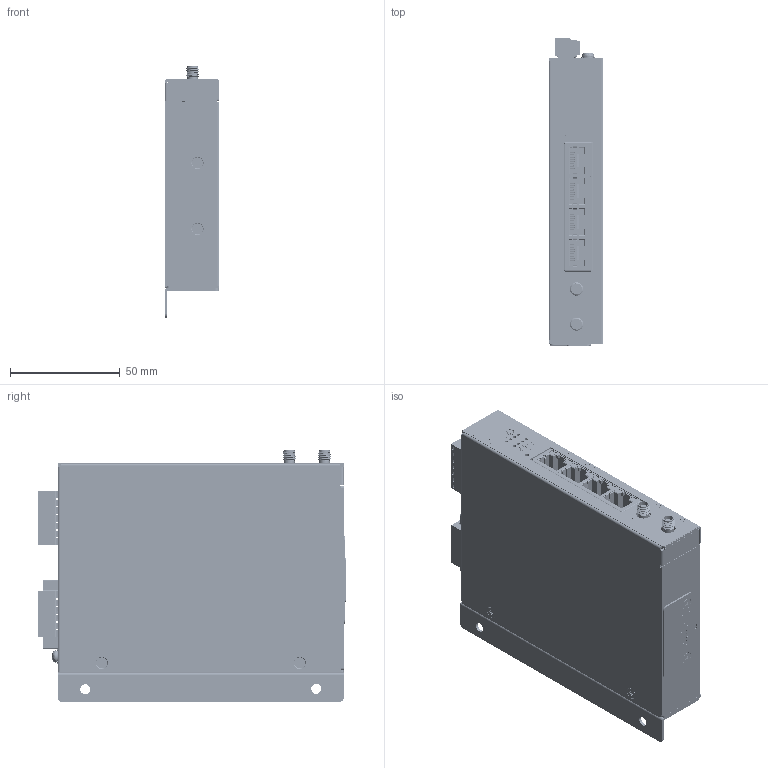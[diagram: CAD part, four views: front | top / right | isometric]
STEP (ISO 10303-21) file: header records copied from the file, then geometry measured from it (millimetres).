
FILE_DESCRIPTION (( 'STEP AP214' ), '1' );
FILE_NAME ('ICR-26xx_Wall_mount.STEP', '2024-10-04T10:29:26', ( '' ), ( '' ), 'SwSTEP 2.0', 'SolidWorks 2024', '' );
FILE_SCHEMA (( 'AUTOMOTIVE_DESIGN' ));
Length unit declared in the file: millimetre
Products named in the file (28): PCB_ICR-25(6)xx; VMC-2022-04-1_Label - Insert SIM carefully_B; SIM7155-6-1-14-A_PART2; Terminal_Block_1x6P; Pin_Header_5x2P; Terminal_Block_1x7P; RJ45_1x4_8p_Connector; ICR-2600_FRONT_Label; SIM7155-6-1-14-A_PART1; Plug-In_Block_1x7P; Chassis_for_ICR-26xx; SMA_5P_Connector; B-ICR26xx A103-1; PUSH_SW_3P; Plate_for_SIM_ICR-2(0,4,5,6)xx; ICR-26xx_Wall_mount; Cover_for_ICR_26xx; SCR_BK_M3_L5_PH_FL_TW_GLUE; LED_HOLDER_GGGG; SCR_ZC_M3_L6_PH_PW_2; Wall_mount_ICR-2(5,6)xx; Micro_SIM_ card_Connector; BTB_20P_Connector; SCR_BK_M3_L5_PH_FL_TW; VMC-2022-04-1_Label - Insert SIM carefully; Plug-In_Block_1x6P; VMC-2022-04-1_Label - Insert SIM carefully_A; SCR_ZC_M3_L6_PH_PW
Assembly tree (40 placements, depth 4):
  ICR-26xx_Wall_mount
    B-ICR26xx A103-1
      PCB_ICR-25(6)xx
      Micro_SIM_ card_Connector  x2
        SIM7155-6-1-14-A_PART1
        SIM7155-6-1-14-A_PART2
      SMA_5P_Connector  x2
      Terminal_Block_1x6P
      Terminal_Block_1x7P
      LED_HOLDER_GGGG  x2
      PUSH_SW_3P
      BTB_20P_Connector
      Pin_Header_5x2P
      RJ45_1x4_8p_Connector
    Chassis_for_ICR-26xx
    Cover_for_ICR_26xx
    Plate_for_SIM_ICR-2(0,4,5,6)xx
    Plug-In_Block_1x6P
    Plug-In_Block_1x7P
    ICR-2600_FRONT_Label
    VMC-2022-04-1_Label - Insert SIM carefully
      VMC-2022-04-1_Label - Insert SIM carefully_A
      VMC-2022-04-1_Label - Insert SIM carefully_B
    SCR_BK_M3_L5_PH_FL_TW  x5
    SCR_BK_M3_L5_PH_FL_TW_GLUE  x4
    SCR_ZC_M3_L6_PH_PW_2
    SCR_ZC_M3_L6_PH_PW  x4
    Wall_mount_ICR-2(5,6)xx
Bounding box: 25 x 139.9 x 114.6 mm (x, y, z)
Volume: 76240.5 mm3; surface area: 152971.4 mm2
Topology: 246 solids, 252 shells, 18173 faces, 48711 edges, 31121 vertices
Faces by surface type: plane 13218, cylinder 3206, bspline 1046, cone 367, sphere 212, torus 124
Entity records: 708389 total; most frequent: CARTESIAN_POINT 152241, ORIENTED_EDGE 86796, DIRECTION 77597, EDGE_CURVE 43398, LINE 35319, VECTOR 35319, VERTEX_POINT 27763, AXIS2_PLACEMENT_3D 21139
